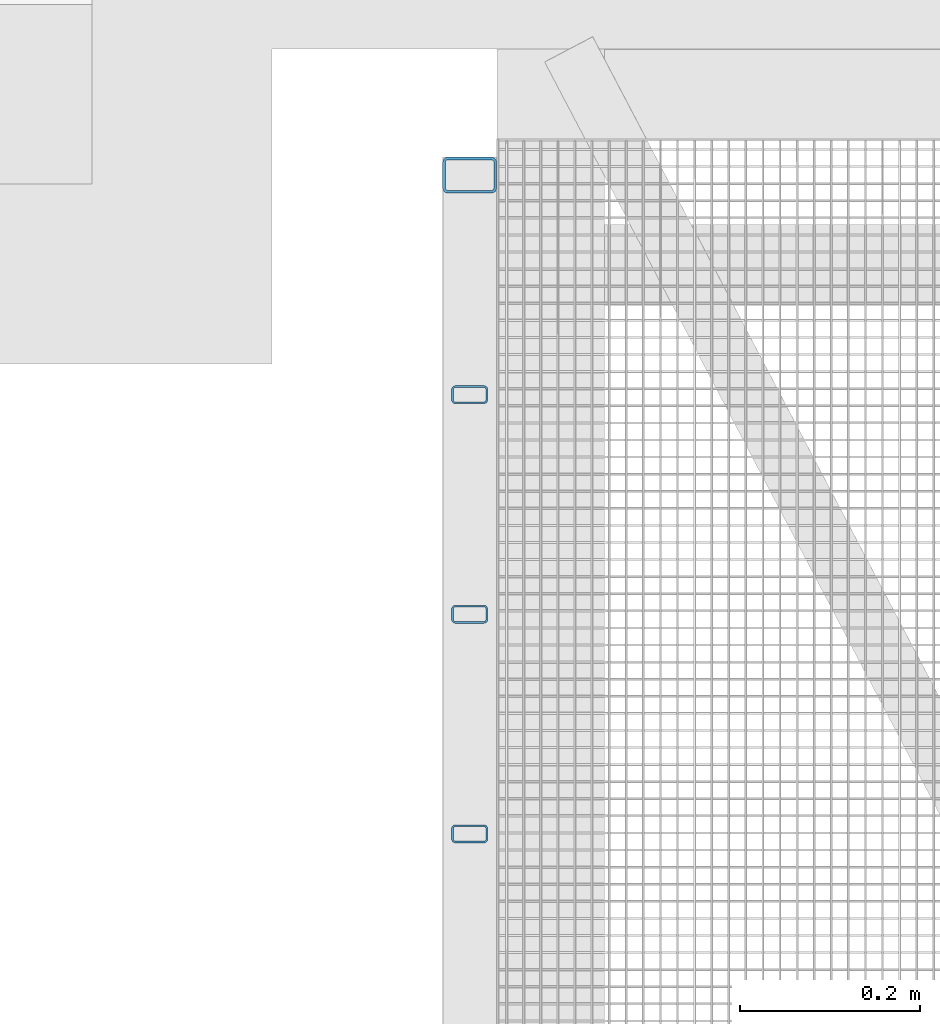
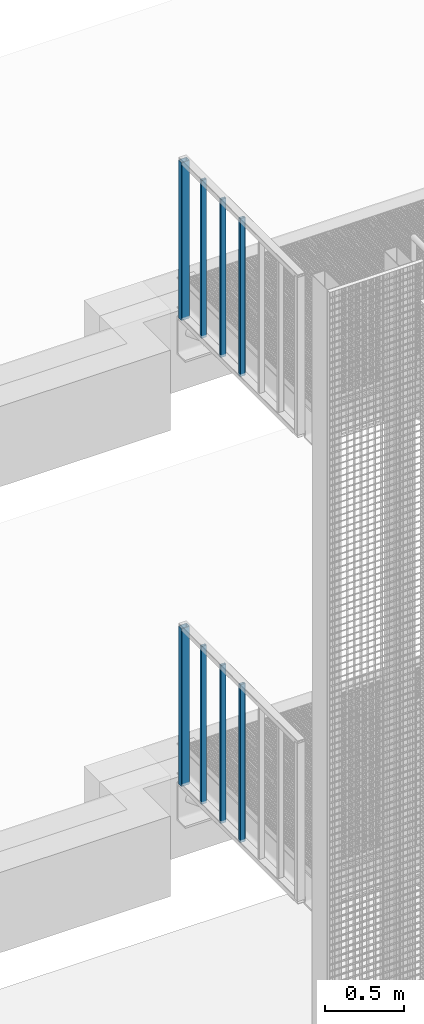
# One storey, part 27 of 1183: 8 columns, 8 elements without a shape of their own.
"""IFC2X3 building model written with IfcOpenShell, lengths in millimetres."""

from ifc_helpers import new_model, si_unit, frame, origin_with_axes, origin_2d_with_axis, place, context, subcontext, project, spatial, hollow_rectangle, extrude, material, type_object, element, aggregate, save


model = new_model("IFC2X3")

# Units and contexts
model_context = context("Model", 3, precision=1e-05, world=origin_with_axes())
body_context = subcontext(model_context, "Body", "Model", "MODEL_VIEW")
ifc_project = project(units=[si_unit("LENGTHUNIT", "METRE", prefix="MILLI"), si_unit("AREAUNIT", "SQUARE_METRE"), si_unit("VOLUMEUNIT", "CUBIC_METRE"), si_unit("MASSUNIT", "GRAM", prefix="KILO"), si_unit("TIMEUNIT", "SECOND"), si_unit("PLANEANGLEUNIT", "RADIAN"), si_unit("SOLIDANGLEUNIT", "STERADIAN"), si_unit("THERMODYNAMICTEMPERATUREUNIT", "DEGREE_CELSIUS"), si_unit("LUMINOUSINTENSITYUNIT", "LUMEN")], contexts=[model_context])

# Site, building, storey
site_placement = place(None, origin_with_axes())
site = spatial("IfcSite", under=ifc_project, at=site_placement, Name="Undefined", CompositionType="ELEMENT")
building_placement = place(site_placement, origin_with_axes())
building = spatial("IfcBuilding", under=site, at=building_placement, Name="Undefined", CompositionType="ELEMENT")
storey_placement = place(building_placement, origin_with_axes())
storey = spatial("IfcBuildingStorey", under=building, at=storey_placement, Name="Undefined", CompositionType="ELEMENT", Elevation=0.0)

# Assembly, column
assembly_1_placement = place(storey_placement, origin_with_axes())
assembly_1 = element("IfcElementAssembly", 1, at=assembly_1_placement, inside=storey, Name="STANCHION", AssemblyPlace="NOTDEFINED", PredefinedType="NOTDEFINED")
ifc_material = material(Name="Undefined/FE510D")
column_type_1 = type_object("IfcColumnType", Name="TUBE-R-40*20*2", PredefinedType="NOTDEFINED")
column_1_placement = place(assembly_1_placement, frame((-1580.06490345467, 2415.85979616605, 17020.0), z_axis=(0.0, 0.0, 1.0), x_axis=(-0.999999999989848, 4.50600000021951e-06, 0.0)))
column_1 = element("IfcColumn", 2, at=column_1_placement, type_object=column_type_1, material=ifc_material, Name="STANCHION", context=body_context, shape_type="SweptSolid", body=[
    extrude(hollow_rectangle(XDim=20.0, YDim=40.0, WallThickness=2.0, InnerFilletRadius=2.0, OuterFilletRadius=4.0, at=origin_2d_with_axis()), frame((0.0, 0.0, 1219.99999999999), z_axis=(0.0, 0.0, -1.0), x_axis=(0.0, 1.0, 0.0)), (0.0, 0.0, 1.0), 1220.0),
])
aggregate(assembly_1, [column_1])

assembly_2_placement = place(storey_placement, origin_with_axes())
assembly_2 = element("IfcElementAssembly", 3, at=assembly_2_placement, inside=storey, Name="STANCHION", AssemblyPlace="NOTDEFINED", PredefinedType="NOTDEFINED")
column_2_placement = place(assembly_2_placement, frame((-1580.06600368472, 2171.68979616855, 17020.0), z_axis=(0.0, 0.0, 1.0), x_axis=(-0.999999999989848, 4.50600000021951e-06, 0.0)))
column_2 = element("IfcColumn", 4, at=column_2_placement, type_object=column_type_1, material=ifc_material, Name="STANCHION", context=body_context, shape_type="SweptSolid", body=[
    extrude(hollow_rectangle(XDim=20.0, YDim=40.0, WallThickness=2.0, InnerFilletRadius=2.0, OuterFilletRadius=4.0, at=origin_2d_with_axis()), frame((0.0, 0.0, 1219.99999999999), z_axis=(0.0, 0.0, -1.0), x_axis=(0.0, 1.0, 0.0)), (0.0, 0.0, 1.0), 1220.0),
])
aggregate(assembly_2, [column_2])

assembly_3_placement = place(storey_placement, origin_with_axes())
assembly_3 = element("IfcElementAssembly", 5, at=assembly_3_placement, inside=storey, Name="STANCHION", AssemblyPlace="NOTDEFINED", PredefinedType="NOTDEFINED")
column_3_placement = place(assembly_3_placement, frame((-1580.06710391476, 1927.51979617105, 17020.0), z_axis=(0.0, 0.0, 1.0), x_axis=(-0.999999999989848, 4.50600000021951e-06, 0.0)))
column_3 = element("IfcColumn", 6, at=column_3_placement, type_object=column_type_1, material=ifc_material, Name="STANCHION", context=body_context, shape_type="SweptSolid", body=[
    extrude(hollow_rectangle(XDim=20.0, YDim=40.0, WallThickness=2.0, InnerFilletRadius=2.0, OuterFilletRadius=4.0, at=origin_2d_with_axis()), frame((0.0, 0.0, 1219.99999999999), z_axis=(0.0, 0.0, -1.0), x_axis=(0.0, 1.0, 0.0)), (0.0, 0.0, 1.0), 1220.0),
])
aggregate(assembly_3, [column_3])

assembly_4_placement = place(storey_placement, origin_with_axes())
assembly_4 = element("IfcElementAssembly", 7, at=assembly_4_placement, inside=storey, Name="STANCHION", AssemblyPlace="NOTDEFINED", PredefinedType="NOTDEFINED")
column_4_placement = place(assembly_4_placement, frame((-1580.06490345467, 2415.85979616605, 13420.0), z_axis=(0.0, 0.0, 1.0), x_axis=(-0.999999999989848, 4.50600000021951e-06, 0.0)))
column_4 = element("IfcColumn", 8, at=column_4_placement, type_object=column_type_1, material=ifc_material, Name="STANCHION", context=body_context, shape_type="SweptSolid", body=[
    extrude(hollow_rectangle(XDim=20.0, YDim=40.0, WallThickness=2.0, InnerFilletRadius=2.0, OuterFilletRadius=4.0, at=origin_2d_with_axis()), frame((0.0, 0.0, 1219.99999999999), z_axis=(0.0, 0.0, -1.0), x_axis=(0.0, 1.0, 0.0)), (0.0, 0.0, 1.0), 1220.0),
])
aggregate(assembly_4, [column_4])

assembly_5_placement = place(storey_placement, origin_with_axes())
assembly_5 = element("IfcElementAssembly", 9, at=assembly_5_placement, inside=storey, Name="STANCHION", AssemblyPlace="NOTDEFINED", PredefinedType="NOTDEFINED")
column_5_placement = place(assembly_5_placement, frame((-1580.06600368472, 2171.68979616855, 13420.0), z_axis=(0.0, 0.0, 1.0), x_axis=(-0.999999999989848, 4.50600000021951e-06, 0.0)))
column_5 = element("IfcColumn", 10, at=column_5_placement, type_object=column_type_1, material=ifc_material, Name="STANCHION", context=body_context, shape_type="SweptSolid", body=[
    extrude(hollow_rectangle(XDim=20.0, YDim=40.0, WallThickness=2.0, InnerFilletRadius=2.0, OuterFilletRadius=4.0, at=origin_2d_with_axis()), frame((0.0, 0.0, 1219.99999999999), z_axis=(0.0, 0.0, -1.0), x_axis=(0.0, 1.0, 0.0)), (0.0, 0.0, 1.0), 1220.0),
])
aggregate(assembly_5, [column_5])

assembly_6_placement = place(storey_placement, origin_with_axes())
assembly_6 = element("IfcElementAssembly", 11, at=assembly_6_placement, inside=storey, Name="STANCHION", AssemblyPlace="NOTDEFINED", PredefinedType="NOTDEFINED")
column_6_placement = place(assembly_6_placement, frame((-1580.06710391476, 1927.51979617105, 13420.0), z_axis=(0.0, 0.0, 1.0), x_axis=(-0.999999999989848, 4.50600000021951e-06, 0.0)))
column_6 = element("IfcColumn", 12, at=column_6_placement, type_object=column_type_1, material=ifc_material, Name="STANCHION", context=body_context, shape_type="SweptSolid", body=[
    extrude(hollow_rectangle(XDim=20.0, YDim=40.0, WallThickness=2.0, InnerFilletRadius=2.0, OuterFilletRadius=4.0, at=origin_2d_with_axis()), frame((0.0, 0.0, 1219.99999999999), z_axis=(0.0, 0.0, -1.0), x_axis=(0.0, 1.0, 0.0)), (0.0, 0.0, 1.0), 1220.0),
])
aggregate(assembly_6, [column_6])

assembly_7_placement = place(storey_placement, origin_with_axes())
assembly_7 = element("IfcElementAssembly", 13, at=assembly_7_placement, inside=storey, Name="STANCHION", AssemblyPlace="NOTDEFINED", PredefinedType="NOTDEFINED")
column_type_2 = type_object("IfcColumnType", Name="TUBE-R-60*40*3", PredefinedType="NOTDEFINED")
column_7_placement = place(assembly_7_placement, frame((-1580.06365344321, 2660.00840282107, 17020.0), z_axis=(0.0, 0.0, 1.0), x_axis=(-0.999999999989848, 4.50600000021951e-06, 0.0)))
column_7 = element("IfcColumn", 14, at=column_7_placement, type_object=column_type_2, material=ifc_material, Name="STANCHION", context=body_context, shape_type="SweptSolid", body=[
    extrude(hollow_rectangle(XDim=40.0, YDim=60.0, WallThickness=3.0, InnerFilletRadius=3.0, OuterFilletRadius=6.0, at=origin_2d_with_axis()), frame((0.0, 0.0, 1219.99999999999), z_axis=(0.0, 0.0, -1.0), x_axis=(0.0, 1.0, 0.0)), (0.0, 0.0, 1.0), 1220.0),
])
aggregate(assembly_7, [column_7])

assembly_8_placement = place(storey_placement, origin_with_axes())
assembly_8 = element("IfcElementAssembly", 15, at=assembly_8_placement, inside=storey, Name="STANCHION", AssemblyPlace="NOTDEFINED", PredefinedType="NOTDEFINED")
column_8_placement = place(assembly_8_placement, frame((-1580.06365344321, 2660.00840282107, 13420.0), z_axis=(0.0, 0.0, 1.0), x_axis=(-0.999999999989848, 4.50600000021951e-06, 0.0)))
column_8 = element("IfcColumn", 16, at=column_8_placement, type_object=column_type_2, material=ifc_material, Name="STANCHION", context=body_context, shape_type="SweptSolid", body=[
    extrude(hollow_rectangle(XDim=40.0, YDim=60.0, WallThickness=3.0, InnerFilletRadius=3.0, OuterFilletRadius=6.0, at=origin_2d_with_axis()), frame((0.0, 0.0, 1219.99999999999), z_axis=(0.0, 0.0, -1.0), x_axis=(0.0, 1.0, 0.0)), (0.0, 0.0, 1.0), 1220.0),
])
aggregate(assembly_8, [column_8])

save(model, "model.ifc")
